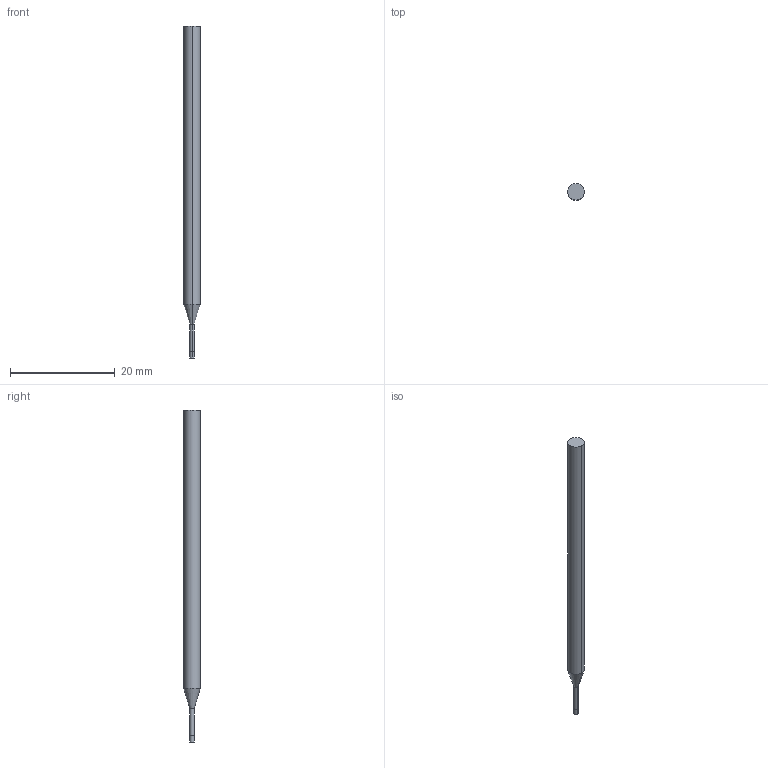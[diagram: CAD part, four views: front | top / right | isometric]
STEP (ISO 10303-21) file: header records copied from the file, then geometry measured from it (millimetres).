
FILE_DESCRIPTION((' '),'2;1');
FILE_NAME( '3MVS0312N8AH.stp', '2026-01-21T19:06:50', (' '), ('--- Datakit www.datakit.com---'), ' Datakit CrossCadWare V2025.4 Sep 19 2025', 'Mastercam 2027', ' ');
FILE_SCHEMA(('AUTOMOTIVE_DESIGN { 1 0 10303 214 1 1 1 1 }'));
Length unit declared in the file: inch
Products named in the file (1): 3MVS0312N8AH
Bounding box: 3.17 x 3.17 x 63.5 mm (x, y, z)
Volume: 438.2 mm3; surface area: 580.8 mm2
Topology: 1 solids, 1 shells, 10 faces, 18 edges, 10 vertices
Faces by surface type: cylinder 6, plane 2, cone 2
Entity records: 323 total; most frequent: DIRECTION 58, CARTESIAN_POINT 43, ORIENTED_EDGE 36, AXIS2_PLACEMENT_3D 25, EDGE_CURVE 18, VERTEX_POINT 10, CIRCLE 10, EDGE_LOOP 10
